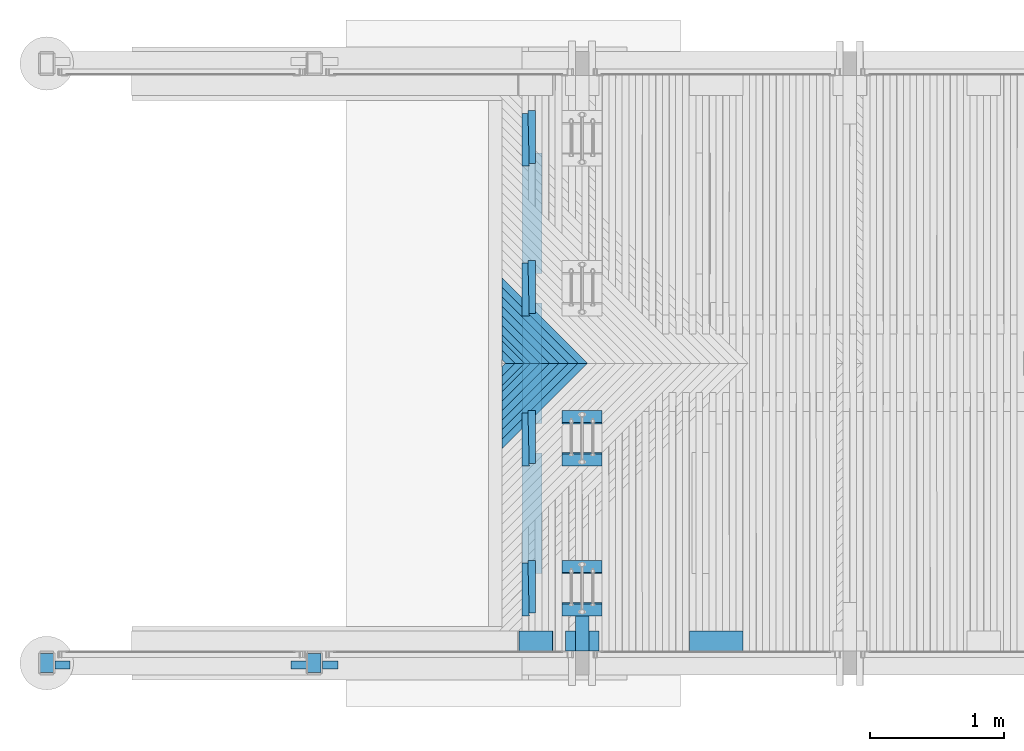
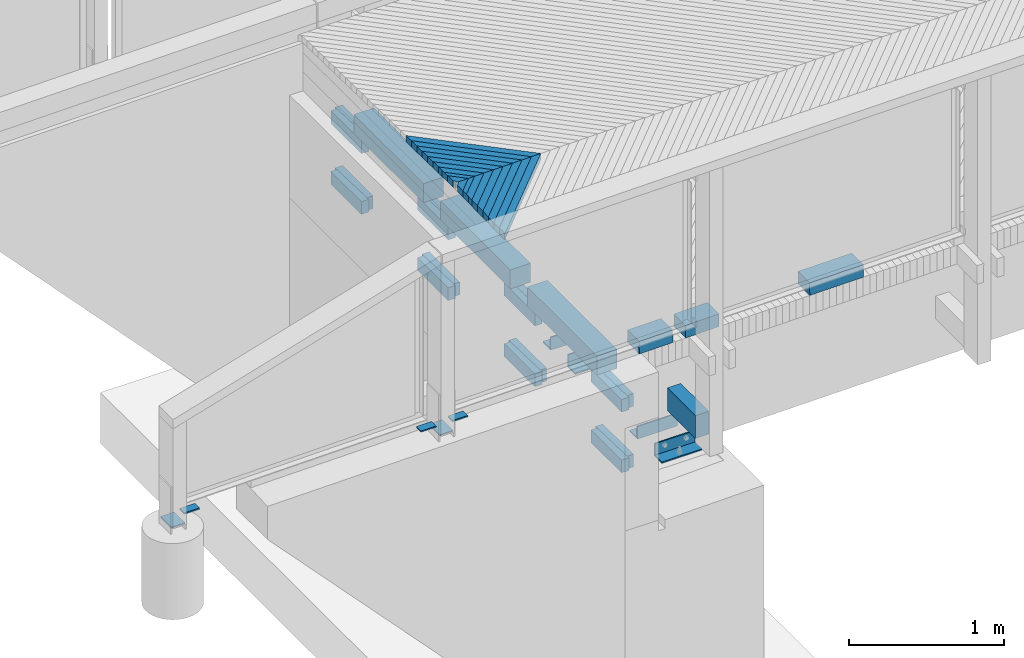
# One storey, part 50 of 65: 50 beams.
"""IFC2X3 building model written with IfcOpenShell, lengths in millimetres."""

from ifc_helpers import new_model, si_unit, frame, origin_with_axes, place, context, subcontext, project, spatial, faceted_brep, material, type_object, element, save


model = new_model("IFC2X3")

# Units and contexts
model_context = context("Model", 3, precision=1e-05, world=origin_with_axes())
body_context = subcontext(model_context, "Body", "Model", "MODEL_VIEW")
ifc_project = project(units=[si_unit("LENGTHUNIT", "METRE", prefix="MILLI"), si_unit("AREAUNIT", "SQUARE_METRE"), si_unit("VOLUMEUNIT", "CUBIC_METRE"), si_unit("MASSUNIT", "GRAM", prefix="KILO"), si_unit("TIMEUNIT", "SECOND"), si_unit("PLANEANGLEUNIT", "RADIAN"), si_unit("SOLIDANGLEUNIT", "STERADIAN"), si_unit("THERMODYNAMICTEMPERATUREUNIT", "DEGREE_CELSIUS"), si_unit("LUMINOUSINTENSITYUNIT", "LUMEN")], contexts=[model_context])

# Site, building, storey
site_placement = place(None, origin_with_axes())
site = spatial("IfcSite", under=ifc_project, at=site_placement, Name="Undefined", CompositionType="ELEMENT")
building_placement = place(site_placement, origin_with_axes())
building = spatial("IfcBuilding", under=site, at=building_placement, Name="Undefined", CompositionType="ELEMENT")
storey_placement = place(building_placement, origin_with_axes())
storey = spatial("IfcBuildingStorey", under=building, at=storey_placement, Name="Undefined", CompositionType="ELEMENT", Elevation=0.0)

# Beams
ifc_material_1 = material(Name="STEEL/AISI316")
beam_type_1 = type_object("IfcBeamType", Name="PL60*10", PredefinedType="NOTDEFINED")
for number, where, z_axis, x_axis in (
    (1, (-3940.00349607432, 20109.9999997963, 3147.80999999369), (-0.000116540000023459, 0.999999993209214, 0.0), (0.999999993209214, 0.000116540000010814, 0.0)),
    (2, (-2059.99650392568, 20109.9999997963, 3175.9199999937), (0.000116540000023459, 0.999999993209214, 0.0), (-0.999999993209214, 0.000116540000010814, 0.0)),
    (3, (-1940.00349607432, 20109.9999997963, 3175.91999999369), (-0.000116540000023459, 0.999999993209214, 0.0), (0.999999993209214, 0.000116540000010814, 0.0)),
):
    element("IfcBeam", number, at=place(storey_placement, frame(where, z_axis=z_axis, x_axis=x_axis)), inside=storey, type_object=beam_type_1, material=ifc_material_1, Name="KAIDEPYLVÄS", ObjectType="PL60*10", context=body_context, shape_type="Brep", body=[
        faceted_brep([(0.0, 5.0, -30.0), (0.0, 5.0, 30.0), (115.000000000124, 5.0, 30.0), (115.00000000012, 5.0, -30.0), (0.0, -5.0, 30.0), (115.000000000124, -5.0, 30.0), (0.0, -5.0, -30.0), (115.00000000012, -5.0, -30.0)], [[[0, 1, 2, 3]], [[1, 4, 5, 2]], [[4, 6, 7, 5]], [[6, 0, 3, 7]], [[5, 7, 3, 2]], [[6, 4, 1, 0]]]),
    ])
beam_type_2 = type_object("IfcBeamType", Name="PL100*10", PredefinedType="NOTDEFINED")
for number, where, z_axis, x_axis in (
    (4, (-3999.99999987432, 20055.02, 3089.56000000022), (-1.0, 0.0, 0.0), (0.0, 1.0, 0.0)),
    (5, (-1999.99999987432, 20055.02, 3117.67000000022), (-1.0, 0.0, 0.0), (0.0, 1.0, 0.0)),
):
    element("IfcBeam", number, at=place(storey_placement, frame(where, z_axis=z_axis, x_axis=x_axis)), inside=storey, type_object=beam_type_2, material=ifc_material_1, Name="KAIDEPYLVÄS", ObjectType="PL100*10", context=body_context, shape_type="Brep", body=[
        faceted_brep([(0.0, 5.0, -50.0), (0.0, 5.0, 50.0), (140.0, 5.0, 50.0), (140.0, 5.0, -50.0), (0.0, -5.0, 50.0), (140.0, -5.0, 50.0), (0.0, -5.0, -50.0), (140.0, -5.0, -50.0)], [[[0, 1, 2, 3]], [[1, 4, 5, 2]], [[4, 6, 7, 5]], [[6, 0, 3, 7]], [[5, 7, 3, 2]], [[6, 4, 1, 0]]]),
    ])
ifc_material_2 = material(Name="TIMBER/Timber_Undefined")
beam_type_3 = type_object("IfcBeamType", Name="150*100", PredefinedType="NOTDEFINED")
beam_1_placement = place(storey_placement, frame((801.255181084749, 20289.9999999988, 3175.55415743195), z_axis=(0.0, -1.0, 0.0), x_axis=(0.999955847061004, 0.0, 0.0093970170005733)))
element("IfcBeam", 6, at=beam_1_placement, inside=storey, type_object=beam_type_3, material=ifc_material_2, Name="TÖRMÄYSJOHDE", ObjectType="150*100", context=body_context, shape_type="Brep", body=[
    faceted_brep([(-3.63797880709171e-12, 50.0, -75.0), (-3.63797880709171e-12, 50.0, 75.0), (399.996161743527, 49.9999999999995, 75.0), (399.996161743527, 49.9999999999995, -75.0), (0.0, -49.9999999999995, 75.0), (399.996161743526, -50.0000000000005, 75.0), (0.0, -49.9999999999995, -75.0), (399.996161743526, -50.0000000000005, -75.0)], [[[0, 1, 2, 3]], [[1, 4, 5, 2]], [[4, 6, 7, 5]], [[6, 0, 3, 7]], [[5, 7, 3, 2]], [[6, 4, 1, 0]]]),
])
for number, where, z_axis, x_axis in (
    (7, (-124.254815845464, 20289.9999999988, 3163.13350788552), (0.0, -1.0, 0.0), (0.999891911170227, 0.0, 0.0147025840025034)),
    (8, (-469.724815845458, 20289.9999999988, 3158.3535078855), (0.0, -1.0, 0.0), (0.999891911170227, 0.0, 0.0147025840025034)),
):
    element("IfcBeam", number, at=place(storey_placement, frame(where, z_axis=z_axis, x_axis=x_axis)), inside=storey, type_object=beam_type_3, material=ifc_material_2, Name="TÖRMÄYSJOHDE", ObjectType="150*100", context=body_context, shape_type="Brep", body=[
        faceted_brep([(-3.63797880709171e-12, 50.0, -75.0), (-3.63797880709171e-12, 50.0, 75.0), (250.000589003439, 50.0000000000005, 75.0), (250.000589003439, 50.0000000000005, -75.0), (0.0, -49.9999999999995, 75.0), (250.000589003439, -50.0, 75.0), (0.0, -49.9999999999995, -75.0), (250.000589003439, -50.0, -75.0)], [[[0, 1, 2, 3]], [[1, 4, 5, 2]], [[4, 6, 7, 5]], [[6, 0, 3, 7]], [[5, 7, 3, 2]], [[6, 4, 1, 0]]]),
    ])
beam_type_4 = type_object("IfcBeamType", Name="150*150", PredefinedType="NOTDEFINED")
for number, where, z_axis, x_axis, name in (
    (9, (-375.006122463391, 23035.0011300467, 2658.99214114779), (4.45050000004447e-05, 0.0, 0.999999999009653), (0.0, 1.0, 0.0), "BEAM"),
    (10, (-375.006122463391, 21915.0011300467, 2658.99214114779), (4.45050000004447e-05, 0.0, 0.999999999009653), (0.0, 1.0, 0.0), "BEAM"),
    (11, (-375.006122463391, 20795.0011300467, 2658.99214114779), (4.45050000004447e-05, 0.0, 0.999999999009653), (0.0, 1.0, 0.0), "BEAM"),
):
    element("IfcBeam", number, at=place(storey_placement, frame(where, z_axis=z_axis, x_axis=x_axis)), inside=storey, type_object=beam_type_4, material=ifc_material_2, Name=name, ObjectType="150*150", context=body_context, shape_type="Brep", body=[
        faceted_brep([(3.63797880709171e-12, 75.0000000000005, -75.0), (3.63797880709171e-12, 75.0000000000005, 75.0), (900.0, 75.0, 75.0000000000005), (900.0, 74.9999999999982, -74.9999999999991), (0.0, -75.0000000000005, 75.0), (900.0, -75.0000000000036, 75.0000000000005), (0.0, -75.0000000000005, -75.0), (900.0, -75.0, -74.9999999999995)], [[[0, 1, 2, 3]], [[1, 4, 5, 2]], [[4, 6, 7, 5]], [[6, 0, 3, 7]], [[5, 7, 3, 2]], [[6, 4, 1, 0]]]),
    ])
beam_type_5 = type_object("IfcBeamType", Name="180*100", PredefinedType="NOTDEFINED")
beam_2_placement = place(storey_placement, frame((7.51175321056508e-07, 20215.0120919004, 2385.26), z_axis=(0.0, 0.0, 1.0), x_axis=(0.0, 1.0, 0.0)))
element("IfcBeam", 12, at=beam_2_placement, inside=storey, type_object=beam_type_5, material=ifc_material_2, Name="KAIDEPYLVÄS", ObjectType="180*100", context=body_context, shape_type="Brep", body=[
    faceted_brep([(0.0, 50.0, -90.0), (0.0, 50.0, 90.0), (363.740000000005, 50.0, 90.0), (363.740000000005, 50.0, -90.0), (0.0, -50.0, 90.0), (363.740000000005, -50.0, 90.0), (0.0, -50.0, -90.0), (363.740000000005, -50.0, -90.0)], [[[0, 1, 2, 3]], [[1, 4, 5, 2]], [[4, 6, 7, 5]], [[6, 0, 3, 7]], [[5, 7, 3, 2]], [[6, 4, 1, 0]]]),
])
beam_type_6 = type_object("IfcBeamType", Name="50*50", PredefinedType="NOTDEFINED")
beam_3_placement = place(storey_placement, frame((-537.985484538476, 22364.5001003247, 3175.22917320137), z_axis=(0.707225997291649, -0.706981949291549, -0.00281285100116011), x_axis=(-0.706806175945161, -0.70694885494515, -0.0254626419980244)))
element("IfcBeam", 13, at=beam_3_placement, inside=storey, type_object=beam_type_6, material=ifc_material_2, Name="BEAM", ObjectType="50*50", context=body_context, shape_type="Brep", body=[
    faceted_brep([(23.4806436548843, -24.9999999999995, -25.0000000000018), (-26.4222658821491, -25.0000000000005, 25.0), (-25.0086637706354, 24.9999999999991, 25.0), (24.8942457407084, 25.0000000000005, -25.0000000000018), (62.1578303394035, -24.9999999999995, -25.0), (112.187528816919, -24.9999999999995, 25.0), (113.320306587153, 25.0000000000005, 25.0), (63.2906081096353, 25.0000000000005, -25.0)], [[[0, 1, 2, 3]], [[1, 0, 4, 5]], [[2, 1, 5, 6]], [[3, 2, 6, 7]], [[0, 3, 7, 4]], [[6, 5, 4, 7]]]),
])
beam_4_placement = place(storey_placement, frame((-537.985484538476, 22365.4998996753, 3175.22917320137), z_axis=(0.707225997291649, 0.706981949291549, -0.00281285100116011), x_axis=(-0.706806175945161, 0.70694885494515, -0.0254626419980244)))
element("IfcBeam", 14, at=beam_4_placement, inside=storey, type_object=beam_type_6, material=ifc_material_2, Name="BEAM", ObjectType="50*50", context=body_context, shape_type="Brep", body=[
    faceted_brep([(25.0011701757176, -25.0000000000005, -24.9999999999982), (-25.0011704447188, -25.0, 24.9999999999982), (-26.4154158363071, 24.9999999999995, 24.9999999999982), (23.5869248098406, 24.9999999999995, -24.9999999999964), (112.187528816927, 24.9999999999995, 25.0000000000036), (62.157830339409, 24.9999999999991, -24.9999999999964), (63.2906081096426, -25.0, -24.9999999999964), (113.320306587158, -25.0, 25.0000000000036)], [[[0, 1, 2, 3]], [[3, 2, 4, 5]], [[0, 3, 5, 6]], [[1, 0, 6, 7]], [[2, 1, 7, 4]], [[6, 5, 4, 7]]]),
])
beam_5_placement = place(storey_placement, frame((-467.268344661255, 22364.5001003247, 3176.23083387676), z_axis=(0.70722566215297, -0.706981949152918, -0.00289592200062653), x_axis=(-0.706809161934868, -0.706948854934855, -0.0253796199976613)))
element("IfcBeam", 15, at=beam_5_placement, inside=storey, type_object=beam_type_6, material=ifc_material_2, Name="BEAM", ObjectType="50*50", context=body_context, shape_type="Brep", body=[
    faceted_brep([(23.4806436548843, -24.9999999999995, -25.0000000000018), (-26.4222658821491, -25.0000000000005, 25.0), (-25.0086637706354, 24.9999999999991, 25.0), (24.8942457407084, 25.0000000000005, -25.0000000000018), (162.212982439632, -25.0, -25.0000000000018), (212.242445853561, -24.9999999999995, 25.0), (213.366912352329, 25.0000000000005, 25.0), (163.3374489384, 25.0000000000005, -25.0000000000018)], [[[0, 1, 2, 3]], [[1, 0, 4, 5]], [[2, 1, 5, 6]], [[3, 2, 6, 7]], [[0, 3, 7, 4]], [[6, 5, 4, 7]]]),
])
beam_6_placement = place(storey_placement, frame((-467.268344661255, 22365.4998996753, 3176.23083387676), z_axis=(0.70722566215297, 0.706981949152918, -0.00289592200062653), x_axis=(-0.706809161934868, 0.706948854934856, -0.0253796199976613)))
element("IfcBeam", 16, at=beam_6_placement, inside=storey, type_object=beam_type_6, material=ifc_material_2, Name="BEAM", ObjectType="50*50", context=body_context, shape_type="Brep", body=[
    faceted_brep([(25.0011701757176, -25.0000000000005, -24.9999999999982), (-25.0011704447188, -25.0, 24.9999999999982), (-26.4154158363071, 24.9999999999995, 24.9999999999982), (23.5869248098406, 24.9999999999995, -24.9999999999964), (212.242445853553, 25.0000000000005, 25.0), (162.212982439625, 25.0, -25.0000000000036), (163.337448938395, -24.9999999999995, -25.0), (213.366912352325, -24.9999999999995, 25.0)], [[[0, 1, 2, 3]], [[3, 2, 4, 5]], [[0, 3, 5, 6]], [[1, 0, 6, 7]], [[2, 1, 7, 4]], [[6, 5, 4, 7]]]),
])
beam_7_placement = place(storey_placement, frame((-421.551087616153, 22364.5001003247, 3177.22418806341), z_axis=(0.707225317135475, -0.706981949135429, -0.00297899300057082), x_axis=(-0.706812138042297, -0.706948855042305, -0.0252965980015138)))
element("IfcBeam", 17, at=beam_7_placement, inside=storey, type_object=beam_type_6, material=ifc_material_2, Name="BEAM", ObjectType="50*50", context=body_context, shape_type="Brep", body=[
    faceted_brep([(23.4806436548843, -24.9999999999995, -25.0000000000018), (-26.4222658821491, -25.0000000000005, 25.0), (-25.0086637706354, 24.9999999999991, 25.0), (24.8942457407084, 25.0000000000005, -25.0000000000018), (226.897381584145, -24.9999999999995, -25.0), (276.926609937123, -24.9999999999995, 25.0), (278.042765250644, 25.0000000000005, 25.0000000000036), (228.013536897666, 25.0000000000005, -24.9999999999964)], [[[0, 1, 2, 3]], [[1, 0, 4, 5]], [[2, 1, 5, 6]], [[3, 2, 6, 7]], [[0, 3, 7, 4]], [[6, 5, 4, 7]]]),
])
beam_8_placement = place(storey_placement, frame((-421.551087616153, 22365.4998996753, 3177.22418806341), z_axis=(0.707225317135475, 0.706981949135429, -0.00297899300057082), x_axis=(-0.706812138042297, 0.706948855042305, -0.0252965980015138)))
element("IfcBeam", 18, at=beam_8_placement, inside=storey, type_object=beam_type_6, material=ifc_material_2, Name="BEAM", ObjectType="50*50", context=body_context, shape_type="Brep", body=[
    faceted_brep([(25.0011701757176, -25.0000000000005, -24.9999999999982), (-25.0011704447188, -25.0, 24.9999999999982), (-26.4154158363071, 24.9999999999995, 24.9999999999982), (23.5869248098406, 24.9999999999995, -24.9999999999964), (276.926609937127, 25.0000000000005, 24.9999999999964), (226.897381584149, 25.0000000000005, -25.0000000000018), (228.013536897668, -24.9999999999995, -25.0000000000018), (278.042765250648, -24.9999999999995, 25.0000000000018)], [[[0, 1, 2, 3]], [[3, 2, 4, 5]], [[0, 3, 5, 6]], [[1, 0, 6, 7]], [[2, 1, 7, 4]], [[6, 5, 4, 7]]]),
])
beam_9_placement = place(storey_placement, frame((-350.833714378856, 22364.5001003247, 3178.20923574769), z_axis=(0.707224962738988, -0.706981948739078, -0.00306206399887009), x_axis=(-0.706815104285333, -0.706948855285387, -0.0252135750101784)))
element("IfcBeam", 19, at=beam_9_placement, inside=storey, type_object=beam_type_6, material=ifc_material_2, Name="BEAM", ObjectType="50*50", context=body_context, shape_type="Brep", body=[
    faceted_brep([(23.4806436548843, -24.9999999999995, -25.0000000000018), (-26.4222658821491, -25.0000000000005, 25.0), (-25.0086637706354, 24.9999999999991, 25.0), (24.8942457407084, 25.0000000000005, -25.0000000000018), (326.951333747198, -25.0000000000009, -25.0000000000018), (376.980327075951, -25.0, 25.0000000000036), (378.088171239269, 24.9999999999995, 25.0000000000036), (328.059177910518, 24.9999999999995, -24.9999999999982)], [[[0, 1, 2, 3]], [[1, 0, 4, 5]], [[2, 1, 5, 6]], [[3, 2, 6, 7]], [[0, 3, 7, 4]], [[6, 5, 4, 7]]]),
])
beam_10_placement = place(storey_placement, frame((-350.833714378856, 22365.4998996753, 3178.20923574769), z_axis=(0.707224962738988, 0.706981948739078, -0.00306206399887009), x_axis=(-0.706815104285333, 0.706948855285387, -0.0252135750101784)))
element("IfcBeam", 20, at=beam_10_placement, inside=storey, type_object=beam_type_6, material=ifc_material_2, Name="BEAM", ObjectType="50*50", context=body_context, shape_type="Brep", body=[
    faceted_brep([(25.0011701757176, -25.0000000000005, -24.9999999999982), (-25.0011704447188, -25.0, 24.9999999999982), (-26.4154158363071, 24.9999999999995, 24.9999999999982), (23.5869248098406, 24.9999999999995, -24.9999999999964), (376.980327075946, 25.0, 25.0000000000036), (326.951333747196, 25.0000000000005, -25.0), (328.059177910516, -24.9999999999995, -24.9999999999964), (378.088171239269, -25.0, 25.0000000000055)], [[[0, 1, 2, 3]], [[3, 2, 4, 5]], [[0, 3, 5, 6]], [[1, 0, 6, 7]], [[2, 1, 7, 4]], [[6, 5, 4, 7]]]),
])
beam_11_placement = place(storey_placement, frame((-280.116225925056, 22364.5001003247, 3179.18597691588), z_axis=(0.707224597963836, -0.70698194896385, -0.00314513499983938), x_axis=(-0.706818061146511, -0.706948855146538, -0.0251305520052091)))
element("IfcBeam", 21, at=beam_11_placement, inside=storey, type_object=beam_type_6, material=ifc_material_2, Name="BEAM", ObjectType="50*50", context=body_context, shape_type="Brep", body=[
    faceted_brep([(23.4806436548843, -24.9999999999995, -25.0000000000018), (-26.4222658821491, -25.0000000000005, 25.0), (-25.0086637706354, 24.9999999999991, 25.0), (24.8942457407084, 25.0000000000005, -25.0000000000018), (427.004615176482, -25.0000000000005, -24.9999999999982), (477.033373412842, -25.0000000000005, 25.0), (478.132906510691, 25.0, 25.0), (428.104148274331, 24.9999999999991, -24.9999999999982)], [[[0, 1, 2, 3]], [[1, 0, 4, 5]], [[2, 1, 5, 6]], [[3, 2, 6, 7]], [[0, 3, 7, 4]], [[6, 5, 4, 7]]]),
])
beam_12_placement = place(storey_placement, frame((-280.116225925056, 22365.4998996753, 3179.18597691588), z_axis=(0.707224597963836, 0.70698194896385, -0.00314513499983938), x_axis=(-0.706818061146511, 0.706948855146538, -0.0251305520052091)))
element("IfcBeam", 22, at=beam_12_placement, inside=storey, type_object=beam_type_6, material=ifc_material_2, Name="BEAM", ObjectType="50*50", context=body_context, shape_type="Brep", body=[
    faceted_brep([(25.0011701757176, -25.0000000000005, -24.9999999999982), (-25.0011704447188, -25.0, 24.9999999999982), (-26.4154158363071, 24.9999999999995, 24.9999999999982), (23.5869248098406, 24.9999999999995, -24.9999999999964), (477.033373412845, 25.0000000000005, 24.9999999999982), (427.004615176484, 25.0000000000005, -25.0000000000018), (428.104148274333, -24.9999999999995, -25.0000000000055), (478.132906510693, -24.9999999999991, 24.9999999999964)], [[[0, 1, 2, 3]], [[3, 2, 4, 5]], [[0, 3, 5, 6]], [[1, 0, 6, 7]], [[2, 1, 7, 4]], [[6, 5, 4, 7]]]),
])
beam_13_placement = place(storey_placement, frame((-209.39862323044, 22364.5001003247, 3180.15441155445), z_axis=(0.707224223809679, -0.706981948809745, -0.00322820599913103), x_axis=(-0.706821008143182, -0.706948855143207, -0.025047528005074)))
element("IfcBeam", 23, at=beam_13_placement, inside=storey, type_object=beam_type_6, material=ifc_material_2, Name="BEAM", ObjectType="50*50", context=body_context, shape_type="Brep", body=[
    faceted_brep([(23.4806436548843, -24.9999999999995, -25.0000000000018), (-26.4222658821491, -25.0000000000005, 25.0), (-25.0086637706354, 24.9999999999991, 25.0), (24.8942457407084, 25.0000000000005, -25.0000000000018), (527.057228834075, -25.0000000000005, -24.9999999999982), (577.085752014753, -25.0, 24.9999999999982), (578.176974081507, 24.9999999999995, 24.9999999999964), (528.148450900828, 24.9999999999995, -25.0)], [[[0, 1, 2, 3]], [[1, 0, 4, 5]], [[2, 1, 5, 6]], [[3, 2, 6, 7]], [[0, 3, 7, 4]], [[6, 5, 4, 7]]]),
])
beam_14_placement = place(storey_placement, frame((-209.39862323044, 22365.4998996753, 3180.15441155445), z_axis=(0.707224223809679, 0.706981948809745, -0.00322820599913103), x_axis=(-0.706821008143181, 0.706948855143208, -0.0250475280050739)))
element("IfcBeam", 24, at=beam_14_placement, inside=storey, type_object=beam_type_6, material=ifc_material_2, Name="BEAM", ObjectType="50*50", context=body_context, shape_type="Brep", body=[
    faceted_brep([(25.0011701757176, -25.0000000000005, -24.9999999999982), (-25.0011704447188, -25.0, 24.9999999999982), (-26.4154158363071, 24.9999999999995, 24.9999999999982), (23.5869248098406, 24.9999999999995, -24.9999999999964), (577.085752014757, 25.0, 24.9999999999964), (527.057228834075, 25.0000000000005, -25.0), (528.148450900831, -24.9999999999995, -25.0000000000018), (578.176974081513, -25.0, 24.9999999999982)], [[[0, 1, 2, 3]], [[3, 2, 4, 5]], [[0, 3, 5, 6]], [[1, 0, 6, 7]], [[2, 1, 7, 4]], [[6, 5, 4, 7]]]),
])
beam_15_placement = place(storey_placement, frame((-138.680907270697, 22364.5001003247, 3181.11453965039), z_axis=(0.707223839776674, -0.706981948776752, -0.00331127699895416), x_axis=(-0.706823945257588, -0.706948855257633, -0.0249645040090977)))
element("IfcBeam", 25, at=beam_15_placement, inside=storey, type_object=beam_type_6, material=ifc_material_2, Name="BEAM", ObjectType="50*50", context=body_context, shape_type="Brep", body=[
    faceted_brep([(23.4806436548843, -24.9999999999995, -25.0000000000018), (-26.4222658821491, -25.0000000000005, 25.0), (-25.0086637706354, 24.9999999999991, 25.0), (24.8942457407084, 25.0000000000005, -25.0000000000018), (627.109177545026, -25.0000000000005, -25.0000000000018), (677.137465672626, -25.0000000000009, 24.9999999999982), (678.220376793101, 24.9999999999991, 24.9999999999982), (628.192088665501, 24.9999999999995, -25.0000000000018)], [[[0, 1, 2, 3]], [[1, 0, 4, 5]], [[2, 1, 5, 6]], [[3, 2, 6, 7]], [[0, 3, 7, 4]], [[6, 5, 4, 7]]]),
])
beam_16_placement = place(storey_placement, frame((-138.680907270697, 22365.4998996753, 3181.11453965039), z_axis=(0.707223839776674, 0.706981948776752, -0.00331127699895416), x_axis=(-0.706823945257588, 0.706948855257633, -0.0249645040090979)))
element("IfcBeam", 26, at=beam_16_placement, inside=storey, type_object=beam_type_6, material=ifc_material_2, Name="BEAM", ObjectType="50*50", context=body_context, shape_type="Brep", body=[
    faceted_brep([(25.0011701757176, -25.0000000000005, -24.9999999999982), (-25.0011704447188, -25.0, 24.9999999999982), (-26.4154158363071, 24.9999999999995, 24.9999999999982), (23.5869248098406, 24.9999999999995, -24.9999999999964), (677.137465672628, 25.0000000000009, 25.0000000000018), (627.109177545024, 25.0000000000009, -24.9999999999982), (628.192088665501, -25.0, -24.9999999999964), (678.220376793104, -24.9999999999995, 25.0000000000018)], [[[0, 1, 2, 3]], [[3, 2, 4, 5]], [[0, 3, 5, 6]], [[1, 0, 6, 7]], [[2, 1, 7, 4]], [[6, 5, 4, 7]]]),
])
beam_17_placement = place(storey_placement, frame((-67.9630790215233, 22364.5001003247, 3182.06636119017), z_axis=(0.707223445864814, -0.706981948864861, -0.00339434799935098), x_axis=(-0.706826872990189, -0.706948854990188, -0.0248814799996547)))
element("IfcBeam", 27, at=beam_17_placement, inside=storey, type_object=beam_type_6, material=ifc_material_2, Name="BEAM", ObjectType="50*50", context=body_context, shape_type="Brep", body=[
    faceted_brep([(23.4806436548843, -24.9999999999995, -25.0000000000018), (-26.4222658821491, -25.0000000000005, 25.0), (-25.0086637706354, 24.9999999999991, 25.0), (24.8942457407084, 25.0000000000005, -25.0000000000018), (727.160463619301, -25.0000000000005, -24.9999999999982), (777.188516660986, -25.0000000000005, 25.0000000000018), (778.263116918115, 24.9999999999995, 25.0000000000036), (728.235063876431, 25.0, -24.9999999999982)], [[[0, 1, 2, 3]], [[1, 0, 4, 5]], [[2, 1, 5, 6]], [[3, 2, 6, 7]], [[0, 3, 7, 4]], [[6, 5, 4, 7]]]),
])
beam_18_placement = place(storey_placement, frame((-67.9630790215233, 22365.4998996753, 3182.06636119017), z_axis=(0.707223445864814, 0.706981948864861, -0.00339434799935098), x_axis=(-0.706826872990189, 0.706948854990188, -0.0248814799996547)))
element("IfcBeam", 28, at=beam_18_placement, inside=storey, type_object=beam_type_6, material=ifc_material_2, Name="BEAM", ObjectType="50*50", context=body_context, shape_type="Brep", body=[
    faceted_brep([(25.0011701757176, -25.0000000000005, -24.9999999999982), (-25.0011704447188, -25.0, 24.9999999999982), (-26.4154158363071, 24.9999999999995, 24.9999999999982), (23.5869248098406, 24.9999999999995, -24.9999999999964), (777.188516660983, 25.0, 24.9999999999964), (727.160463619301, 25.0000000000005, -25.0), (728.235063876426, -25.0, -25.0), (778.263116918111, -24.9999999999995, 25.0)], [[[0, 1, 2, 3]], [[3, 2, 4, 5]], [[0, 3, 5, 6]], [[1, 0, 6, 7]], [[2, 1, 7, 4]], [[6, 5, 4, 7]]]),
])
beam_19_placement = place(storey_placement, frame((2.75486054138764, 22364.5001003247, 3183.00987616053), z_axis=(0.70722304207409, -0.706981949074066, -0.00347741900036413), x_axis=(-0.706829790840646, -0.706948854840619, -0.0247984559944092)))
element("IfcBeam", 29, at=beam_19_placement, inside=storey, type_object=beam_type_6, material=ifc_material_2, Name="BEAM", ObjectType="50*50", context=body_context, shape_type="Brep", body=[
    faceted_brep([(23.4806436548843, -24.9999999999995, -25.0000000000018), (-26.4222658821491, -25.0000000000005, 25.0), (-25.0086637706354, 24.9999999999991, 25.0), (24.8942457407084, 25.0000000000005, -25.0000000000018), (827.211090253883, -24.9999999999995, -24.9999999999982), (877.238908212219, -24.9999999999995, 24.9999999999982), (878.305197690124, 25.0000000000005, 25.0), (828.277379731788, 25.0000000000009, -24.9999999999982)], [[[0, 1, 2, 3]], [[1, 0, 4, 5]], [[2, 1, 5, 6]], [[3, 2, 6, 7]], [[0, 3, 7, 4]], [[6, 5, 4, 7]]]),
])
beam_20_placement = place(storey_placement, frame((2.75486054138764, 22365.4998996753, 3183.00987616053), z_axis=(0.70722304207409, 0.706981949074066, -0.00347741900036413), x_axis=(-0.706829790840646, 0.706948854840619, -0.0247984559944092)))
element("IfcBeam", 30, at=beam_20_placement, inside=storey, type_object=beam_type_6, material=ifc_material_2, Name="BEAM", ObjectType="50*50", context=body_context, shape_type="Brep", body=[
    faceted_brep([(25.0011701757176, -25.0000000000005, -24.9999999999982), (-25.0011704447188, -25.0, 24.9999999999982), (-26.4154158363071, 24.9999999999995, 24.9999999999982), (23.5869248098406, 24.9999999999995, -24.9999999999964), (877.238908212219, 25.0, 25.0), (827.211090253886, 25.0, -24.9999999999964), (828.277379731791, -25.0, -24.9999999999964), (878.305197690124, -25.0, 25.0000000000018)], [[[0, 1, 2, 3]], [[3, 2, 4, 5]], [[0, 3, 5, 6]], [[1, 0, 6, 7]], [[2, 1, 7, 4]], [[6, 5, 4, 7]]]),
])
ifc_material_3 = material(Name="STEEL/S235JR")
beam_type_7 = type_object("IfcBeamType", Name="L100*10", PredefinedType="NOTDEFINED")
for number, where, z_axis, x_axis, name in (
    (31, (-150.0, 21962.5, 2047.33), (0.0, 1.0, 0.0), (1.0, 0.0, 0.0), "BEAM"),
    (32, (-150.0, 21647.5, 2047.33), (0.0, 0.0, 1.0), (1.0, 0.0, 0.0), "BEAM"),
    (33, (-150.0, 20842.5, 2025.33), (0.0, 1.0, 0.0), (1.0, 0.0, 0.0), "BEAM"),
    (34, (-150.0, 20527.5, 2025.33), (0.0, 0.0, 1.0), (1.0, 0.0, 0.0), "BEAM"),
):
    element("IfcBeam", number, at=place(storey_placement, frame(where, z_axis=z_axis, x_axis=x_axis)), inside=storey, type_object=beam_type_7, material=ifc_material_3, Name=name, ObjectType="L100*10", context=body_context, shape_type="Brep", body=[
        faceted_brep([(0.0, 50.0, -50.0), (0.0, 50.0, 50.0), (300.0, 50.0, 50.0), (300.0, 50.0, -50.0), (0.0, 40.0, 50.0), (300.0, 40.0, 50.0), (0.0, 40.0, -40.0), (300.0, 40.0, -40.0), (0.0, -50.0, -40.0), (300.0, -50.0, -40.0), (0.0, -50.0, -50.0), (300.0, -50.0, -50.0)], [[[0, 1, 2, 3]], [[1, 4, 5, 2]], [[4, 6, 7, 5]], [[6, 8, 9, 7]], [[8, 10, 11, 9]], [[10, 0, 3, 11]], [[5, 7, 9, 11, 3, 2]], [[10, 8, 6, 4, 1, 0]]]),
    ])
beam_type_8 = type_object("IfcBeamType", Name="100*60", PredefinedType="NOTDEFINED")
beam_21_placement = place(storey_placement, frame((-380.01, 23857.5, 2533.62000000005), z_axis=(0.0, 0.0, 1.0), x_axis=(0.0, 1.0, 0.0)))
element("IfcBeam", 35, at=beam_21_placement, inside=storey, type_object=beam_type_8, material=ifc_material_2, Name="BEAM", ObjectType="100*60", context=body_context, shape_type="Brep", body=[
    faceted_brep([(0.0, -30.0, 50.0), (0.0, -30.0, -50.0), (395.0, -30.0, -50.0), (395.0, -30.0, 50.0), (0.0, 15.2499998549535, 50.0), (0.0, 15.2499998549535, -50.0), (395.0, 25.2499999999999, -50.0), (395.0, 25.2499999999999, 50.0)], [[[0, 1, 2, 3]], [[1, 0, 4, 5]], [[2, 1, 5, 6]], [[3, 2, 6, 7]], [[0, 3, 7, 4]], [[6, 5, 4, 7]]]),
])
beam_22_placement = place(storey_placement, frame((-420.01, 23837.5, 2533.62000000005), z_axis=(0.0, 0.0, 1.0), x_axis=(0.0, 1.0, 0.0)))
element("IfcBeam", 36, at=beam_22_placement, inside=storey, type_object=beam_type_8, material=ifc_material_2, Name="BEAM", ObjectType="100*60", context=body_context, shape_type="Brep", body=[
    faceted_brep([(0.0, 30.0, -50.0), (0.0, 30.0, 50.0), (395.0, 30.0, 50.0), (395.0, 30.0, -50.0), (0.0, -25.2563292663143, 50.0), (395.0, -15.2563291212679, 50.0), (395.0, -15.2563291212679, -50.0), (0.0, -25.2563292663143, -50.0)], [[[0, 1, 2, 3]], [[2, 1, 4, 5]], [[3, 2, 5, 6]], [[0, 3, 6, 7]], [[1, 0, 7, 4]], [[6, 5, 4, 7]]]),
])
beam_23_placement = place(storey_placement, frame((-380.0, 23857.5, 2055.33), z_axis=(0.0, 0.0, 1.0), x_axis=(0.0, 1.0, 0.0)))
element("IfcBeam", 37, at=beam_23_placement, inside=storey, type_object=beam_type_8, material=ifc_material_2, Name="BEAM", ObjectType="100*60", context=body_context, shape_type="Brep", body=[
    faceted_brep([(0.0, -30.0, 50.0), (0.0, -30.0, -50.0), (395.0, -30.0, -50.0), (395.0, -30.0, 50.0), (0.0, 15.2499998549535, 50.0), (0.0, 15.2499998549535, -50.0), (395.0, 25.2499999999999, -50.0), (395.0, 25.2499999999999, 50.0)], [[[0, 1, 2, 3]], [[1, 0, 4, 5]], [[2, 1, 5, 6]], [[3, 2, 6, 7]], [[0, 3, 7, 4]], [[6, 5, 4, 7]]]),
])
beam_24_placement = place(storey_placement, frame((-420.0, 23837.5, 2055.33), z_axis=(0.0, 0.0, 1.0), x_axis=(0.0, 1.0, 0.0)))
element("IfcBeam", 38, at=beam_24_placement, inside=storey, type_object=beam_type_8, material=ifc_material_2, Name="BEAM", ObjectType="100*60", context=body_context, shape_type="Brep", body=[
    faceted_brep([(0.0, 30.0, -50.0), (0.0, 30.0, 50.0), (395.0, 30.0, 50.0), (395.0, 30.0, -50.0), (0.0, -25.2563292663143, 50.0), (395.0, -15.2563291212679, 50.0), (395.0, -15.2563291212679, -50.0), (0.0, -25.2563292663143, -50.0)], [[[0, 1, 2, 3]], [[2, 1, 4, 5]], [[3, 2, 5, 6]], [[0, 3, 6, 7]], [[1, 0, 7, 4]], [[6, 5, 4, 7]]]),
])
beam_25_placement = place(storey_placement, frame((-380.01, 22737.5, 2533.62000000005), z_axis=(0.0, 0.0, 1.0), x_axis=(0.0, 1.0, 0.0)))
element("IfcBeam", 39, at=beam_25_placement, inside=storey, type_object=beam_type_8, material=ifc_material_2, Name="BEAM", ObjectType="100*60", context=body_context, shape_type="Brep", body=[
    faceted_brep([(0.0, -30.0, 50.0), (0.0, -30.0, -50.0), (395.0, -30.0, -50.0), (395.0, -30.0, 50.0), (0.0, 15.2499998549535, 50.0), (0.0, 15.2499998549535, -50.0), (395.0, 25.2499999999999, -50.0), (395.0, 25.2499999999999, 50.0)], [[[0, 1, 2, 3]], [[1, 0, 4, 5]], [[2, 1, 5, 6]], [[3, 2, 6, 7]], [[0, 3, 7, 4]], [[6, 5, 4, 7]]]),
])
beam_26_placement = place(storey_placement, frame((-420.01, 22717.5, 2533.62000000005), z_axis=(0.0, 0.0, 1.0), x_axis=(0.0, 1.0, 0.0)))
element("IfcBeam", 40, at=beam_26_placement, inside=storey, type_object=beam_type_8, material=ifc_material_2, Name="BEAM", ObjectType="100*60", context=body_context, shape_type="Brep", body=[
    faceted_brep([(0.0, 30.0, -50.0), (0.0, 30.0, 50.0), (395.0, 30.0, 50.0), (395.0, 30.0, -50.0), (0.0, -25.2563292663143, 50.0), (395.0, -15.2563291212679, 50.0), (395.0, -15.2563291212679, -50.0), (0.0, -25.2563292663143, -50.0)], [[[0, 1, 2, 3]], [[2, 1, 4, 5]], [[3, 2, 5, 6]], [[0, 3, 6, 7]], [[1, 0, 7, 4]], [[6, 5, 4, 7]]]),
])
beam_27_placement = place(storey_placement, frame((-380.0, 22737.5, 2055.33), z_axis=(0.0, 0.0, 1.0), x_axis=(0.0, 1.0, 0.0)))
element("IfcBeam", 41, at=beam_27_placement, inside=storey, type_object=beam_type_8, material=ifc_material_2, Name="BEAM", ObjectType="100*60", context=body_context, shape_type="Brep", body=[
    faceted_brep([(0.0, -30.0, 50.0), (0.0, -30.0, -50.0), (395.0, -30.0, -50.0), (395.0, -30.0, 50.0), (0.0, 15.2499998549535, 50.0), (0.0, 15.2499998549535, -50.0), (395.0, 25.2499999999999, -50.0), (395.0, 25.2499999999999, 50.0)], [[[0, 1, 2, 3]], [[1, 0, 4, 5]], [[2, 1, 5, 6]], [[3, 2, 6, 7]], [[0, 3, 7, 4]], [[6, 5, 4, 7]]]),
])
beam_28_placement = place(storey_placement, frame((-420.0, 22717.5, 2055.33), z_axis=(0.0, 0.0, 1.0), x_axis=(0.0, 1.0, 0.0)))
element("IfcBeam", 42, at=beam_28_placement, inside=storey, type_object=beam_type_8, material=ifc_material_2, Name="BEAM", ObjectType="100*60", context=body_context, shape_type="Brep", body=[
    faceted_brep([(0.0, 30.0, -50.0), (0.0, 30.0, 50.0), (395.0, 30.0, 50.0), (395.0, 30.0, -50.0), (0.0, -25.2563292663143, 50.0), (395.0, -15.2563291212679, 50.0), (395.0, -15.2563291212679, -50.0), (0.0, -25.2563292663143, -50.0)], [[[0, 1, 2, 3]], [[2, 1, 4, 5]], [[3, 2, 5, 6]], [[0, 3, 6, 7]], [[1, 0, 7, 4]], [[6, 5, 4, 7]]]),
])
beam_29_placement = place(storey_placement, frame((-380.01, 21617.5, 2533.62000000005), z_axis=(0.0, 0.0, 1.0), x_axis=(0.0, 1.0, 0.0)))
element("IfcBeam", 43, at=beam_29_placement, inside=storey, type_object=beam_type_8, material=ifc_material_2, Name="BEAM", ObjectType="100*60", context=body_context, shape_type="Brep", body=[
    faceted_brep([(0.0, -30.0, 50.0), (0.0, -30.0, -50.0), (395.0, -30.0, -50.0), (395.0, -30.0, 50.0), (0.0, 15.2499998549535, 50.0), (0.0, 15.2499998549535, -50.0), (395.0, 25.2499999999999, -50.0), (395.0, 25.2499999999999, 50.0)], [[[0, 1, 2, 3]], [[1, 0, 4, 5]], [[2, 1, 5, 6]], [[3, 2, 6, 7]], [[0, 3, 7, 4]], [[6, 5, 4, 7]]]),
])
beam_30_placement = place(storey_placement, frame((-420.01, 21597.5, 2533.62000000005), z_axis=(0.0, 0.0, 1.0), x_axis=(0.0, 1.0, 0.0)))
element("IfcBeam", 44, at=beam_30_placement, inside=storey, type_object=beam_type_8, material=ifc_material_2, Name="BEAM", ObjectType="100*60", context=body_context, shape_type="Brep", body=[
    faceted_brep([(0.0, 30.0, -50.0), (0.0, 30.0, 50.0), (395.0, 30.0, 50.0), (395.0, 30.0, -50.0), (0.0, -25.2563292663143, 50.0), (395.0, -15.2563291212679, 50.0), (395.0, -15.2563291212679, -50.0), (0.0, -25.2563292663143, -50.0)], [[[0, 1, 2, 3]], [[2, 1, 4, 5]], [[3, 2, 5, 6]], [[0, 3, 6, 7]], [[1, 0, 7, 4]], [[6, 5, 4, 7]]]),
])
beam_31_placement = place(storey_placement, frame((-380.0, 21617.5, 2055.33), z_axis=(0.0, 0.0, 1.0), x_axis=(0.0, 1.0, 0.0)))
element("IfcBeam", 45, at=beam_31_placement, inside=storey, type_object=beam_type_8, material=ifc_material_2, Name="BEAM", ObjectType="100*60", context=body_context, shape_type="Brep", body=[
    faceted_brep([(0.0, -30.0, 50.0), (0.0, -30.0, -50.0), (395.0, -30.0, -50.0), (395.0, -30.0, 50.0), (0.0, 15.2499998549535, 50.0), (0.0, 15.2499998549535, -50.0), (395.0, 25.2499999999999, -50.0), (395.0, 25.2499999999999, 50.0)], [[[0, 1, 2, 3]], [[1, 0, 4, 5]], [[2, 1, 5, 6]], [[3, 2, 6, 7]], [[0, 3, 7, 4]], [[6, 5, 4, 7]]]),
])
beam_32_placement = place(storey_placement, frame((-420.0, 21597.5, 2055.33), z_axis=(0.0, 0.0, 1.0), x_axis=(0.0, 1.0, 0.0)))
element("IfcBeam", 46, at=beam_32_placement, inside=storey, type_object=beam_type_8, material=ifc_material_2, Name="BEAM", ObjectType="100*60", context=body_context, shape_type="Brep", body=[
    faceted_brep([(0.0, 30.0, -50.0), (0.0, 30.0, 50.0), (395.0, 30.0, 50.0), (395.0, 30.0, -50.0), (0.0, -25.2563292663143, 50.0), (395.0, -15.2563291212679, 50.0), (395.0, -15.2563291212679, -50.0), (0.0, -25.2563292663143, -50.0)], [[[0, 1, 2, 3]], [[2, 1, 4, 5]], [[3, 2, 5, 6]], [[0, 3, 6, 7]], [[1, 0, 7, 4]], [[6, 5, 4, 7]]]),
])
beam_33_placement = place(storey_placement, frame((-380.01, 20497.5, 2533.62000000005), z_axis=(0.0, 0.0, 1.0), x_axis=(0.0, 1.0, 0.0)))
element("IfcBeam", 47, at=beam_33_placement, inside=storey, type_object=beam_type_8, material=ifc_material_2, Name="BEAM", ObjectType="100*60", context=body_context, shape_type="Brep", body=[
    faceted_brep([(0.0, -30.0, 50.0), (0.0, -30.0, -50.0), (395.0, -30.0, -50.0), (395.0, -30.0, 50.0), (0.0, 15.2499998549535, 50.0), (0.0, 15.2499998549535, -50.0), (395.0, 25.2499999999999, -50.0), (395.0, 25.2499999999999, 50.0)], [[[0, 1, 2, 3]], [[1, 0, 4, 5]], [[2, 1, 5, 6]], [[3, 2, 6, 7]], [[0, 3, 7, 4]], [[6, 5, 4, 7]]]),
])
beam_34_placement = place(storey_placement, frame((-420.01, 20477.5, 2533.62000000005), z_axis=(0.0, 0.0, 1.0), x_axis=(0.0, 1.0, 0.0)))
element("IfcBeam", 48, at=beam_34_placement, inside=storey, type_object=beam_type_8, material=ifc_material_2, Name="BEAM", ObjectType="100*60", context=body_context, shape_type="Brep", body=[
    faceted_brep([(0.0, 30.0, -50.0), (0.0, 30.0, 50.0), (395.0, 30.0, 50.0), (395.0, 30.0, -50.0), (0.0, -25.2563292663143, 50.0), (395.0, -15.2563291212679, 50.0), (395.0, -15.2563291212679, -50.0), (0.0, -25.2563292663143, -50.0)], [[[0, 1, 2, 3]], [[2, 1, 4, 5]], [[3, 2, 5, 6]], [[0, 3, 6, 7]], [[1, 0, 7, 4]], [[6, 5, 4, 7]]]),
])
beam_35_placement = place(storey_placement, frame((-380.0, 20497.5, 2055.33), z_axis=(0.0, 0.0, 1.0), x_axis=(0.0, 1.0, 0.0)))
element("IfcBeam", 49, at=beam_35_placement, inside=storey, type_object=beam_type_8, material=ifc_material_2, Name="BEAM", ObjectType="100*60", context=body_context, shape_type="Brep", body=[
    faceted_brep([(0.0, -30.0, 50.0), (0.0, -30.0, -50.0), (395.0, -30.0, -50.0), (395.0, -30.0, 50.0), (0.0, 15.2499998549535, 50.0), (0.0, 15.2499998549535, -50.0), (395.0, 25.2499999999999, -50.0), (395.0, 25.2499999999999, 50.0)], [[[0, 1, 2, 3]], [[1, 0, 4, 5]], [[2, 1, 5, 6]], [[3, 2, 6, 7]], [[0, 3, 7, 4]], [[6, 5, 4, 7]]]),
])
beam_36_placement = place(storey_placement, frame((-420.0, 20477.5, 2055.33), z_axis=(0.0, 0.0, 1.0), x_axis=(0.0, 1.0, 0.0)))
element("IfcBeam", 50, at=beam_36_placement, inside=storey, type_object=beam_type_8, material=ifc_material_2, Name="BEAM", ObjectType="100*60", context=body_context, shape_type="Brep", body=[
    faceted_brep([(0.0, 30.0, -50.0), (0.0, 30.0, 50.0), (395.0, 30.0, 50.0), (395.0, 30.0, -50.0), (0.0, -25.2563292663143, 50.0), (395.0, -15.2563291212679, 50.0), (395.0, -15.2563291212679, -50.0), (0.0, -25.2563292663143, -50.0)], [[[0, 1, 2, 3]], [[2, 1, 4, 5]], [[3, 2, 5, 6]], [[0, 3, 6, 7]], [[1, 0, 7, 4]], [[6, 5, 4, 7]]]),
])

save(model, "model.ifc")
